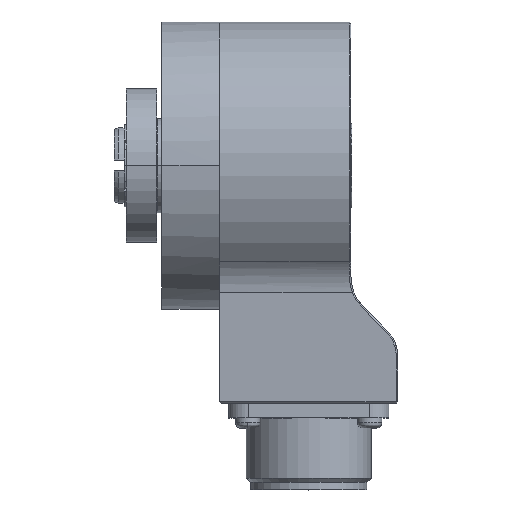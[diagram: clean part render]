
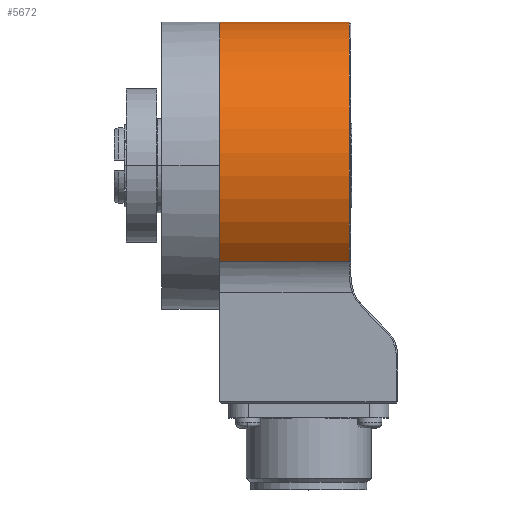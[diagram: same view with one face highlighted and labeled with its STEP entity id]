
A CAD part, top view. The second image highlights one B-rep face of the part: STEP entity #5672.
In plain terms, the highlighted cylindrical face has radius 29 mm (diameter 58 mm), a partial arc.
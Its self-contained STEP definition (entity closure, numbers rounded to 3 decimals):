
#497 = ORIENTED_EDGE ( 'NONE', *, *, #19627, .T. ) ;
#941 = CYLINDRICAL_SURFACE ( 'NONE', #7477, 29. ) ;
#1822 = ORIENTED_EDGE ( 'NONE', *, *, #14365, .T. ) ;
#2246 = FACE_OUTER_BOUND ( 'NONE', #6255, .T. ) ;
#2463 = DIRECTION ( 'NONE',  ( 1., 0., 0. ) ) ;
#2529 = CARTESIAN_POINT ( 'NONE',  ( 8.068, 54.423, 0. ) ) ;
#2793 = EDGE_CURVE ( 'NONE', #11961, #5484, #19257, .T. ) ;
#3918 = CIRCLE ( 'NONE', #10860, 29. ) ;
#4433 = LINE ( 'NONE', #13879, #13809 ) ;
#5484 = VERTEX_POINT ( 'NONE', #21476 ) ;
#5563 = DIRECTION ( 'NONE',  ( -1., 0., 0. ) ) ;
#5672 = ADVANCED_FACE ( 'NONE', ( #2246 ), #941, .T. ) ;
#5919 = CARTESIAN_POINT ( 'NONE',  ( 34.268, 6.004, 21.538 ) ) ;
#6060 = CARTESIAN_POINT ( 'NONE',  ( 8.068, 25.423, 0. ) ) ;
#6235 = EDGE_CURVE ( 'NONE', #8382, #5484, #20323, .T. ) ;
#6255 = EDGE_LOOP ( 'NONE', ( #15986, #497, #1822, #10853 ) ) ;
#6499 = CARTESIAN_POINT ( 'NONE',  ( 8.068, 6.004, 21.538 ) ) ;
#7069 = VECTOR ( 'NONE', #19151, 1000. ) ;
#7308 = CARTESIAN_POINT ( 'NONE',  ( 34.268, 25.423, 0. ) ) ;
#7433 = CARTESIAN_POINT ( 'NONE',  ( 8.068, 54.423, 0. ) ) ;
#7477 = AXIS2_PLACEMENT_3D ( 'NONE', #6060, #2463, #14196 ) ;
#8382 = VERTEX_POINT ( 'NONE', #5919 ) ;
#9241 = CARTESIAN_POINT ( 'NONE',  ( 8.068, 25.423, 0. ) ) ;
#10853 = ORIENTED_EDGE ( 'NONE', *, *, #6235, .T. ) ;
#10860 = AXIS2_PLACEMENT_3D ( 'NONE', #9241, #16293, #15873 ) ;
#11062 = DIRECTION ( 'NONE',  ( 1., 0., 0. ) ) ;
#11961 = VERTEX_POINT ( 'NONE', #2529 ) ;
#12086 = DIRECTION ( 'NONE',  ( 0., 1., 0. ) ) ;
#13634 = VERTEX_POINT ( 'NONE', #6499 ) ;
#13809 = VECTOR ( 'NONE', #11062, 1000. ) ;
#13879 = CARTESIAN_POINT ( 'NONE',  ( 8.068, 6.004, 21.538 ) ) ;
#14196 = DIRECTION ( 'NONE',  ( 0., 1., 0. ) ) ;
#14365 = EDGE_CURVE ( 'NONE', #13634, #8382, #4433, .T. ) ;
#15873 = DIRECTION ( 'NONE',  ( 0., 1., 0. ) ) ;
#15986 = ORIENTED_EDGE ( 'NONE', *, *, #2793, .F. ) ;
#16164 = AXIS2_PLACEMENT_3D ( 'NONE', #7308, #5563, #12086 ) ;
#16293 = DIRECTION ( 'NONE',  ( 1., 0., 0. ) ) ;
#19151 = DIRECTION ( 'NONE',  ( 1., 0., 0. ) ) ;
#19257 = LINE ( 'NONE', #7433, #7069 ) ;
#19627 = EDGE_CURVE ( 'NONE', #11961, #13634, #3918, .T. ) ;
#20323 = CIRCLE ( 'NONE', #16164, 29. ) ;
#21476 = CARTESIAN_POINT ( 'NONE',  ( 34.268, 54.423, 0. ) ) ;
